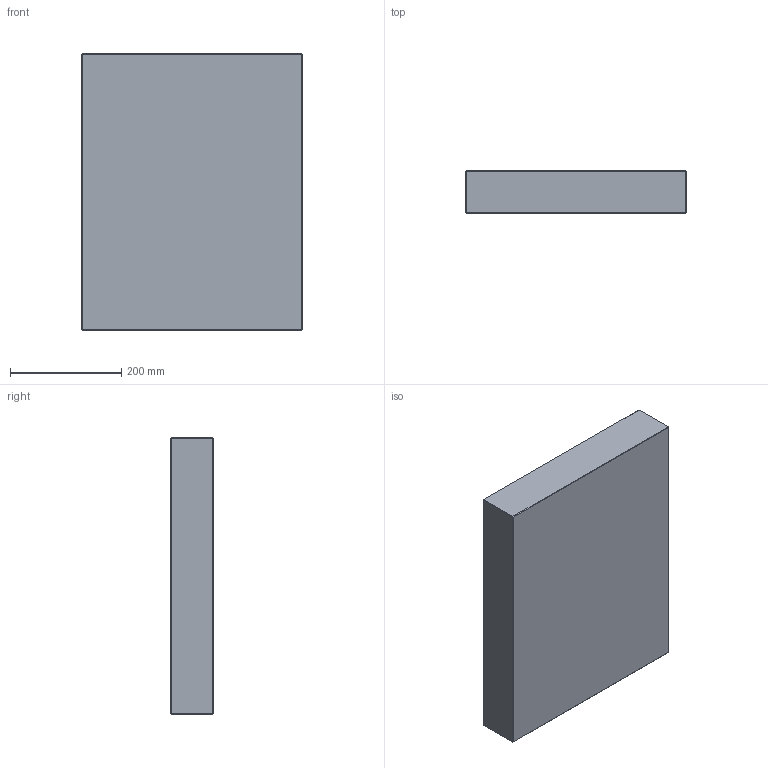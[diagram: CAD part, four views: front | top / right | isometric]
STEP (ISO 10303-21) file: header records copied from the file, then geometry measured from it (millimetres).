
FILE_DESCRIPTION (( 'STEP AP214' ), '1' );
FILE_NAME ('PC-P-396x496x76.STEP', '2020-04-01T10:41:39', ( 'August' ), ( '' ), 'SwSTEP 2.0', 'SolidWorks 2018', '' );
FILE_SCHEMA (( 'AUTOMOTIVE_DESIGN' ));
Length unit declared in the file: millimetre
Products named in the file (1): PC-P-396x496x76
Bounding box: 396 x 76 x 496 mm (x, y, z)
Volume: 14925685.3 mm3; surface area: 526144.8 mm2
Topology: 1 solids, 1 shells, 26 faces, 48 edges, 24 vertices
Faces by surface type: plane 26
Entity records: 634 total; most frequent: DIRECTION 102, CARTESIAN_POINT 99, ORIENTED_EDGE 96, LINE 48, EDGE_CURVE 48, VECTOR 48, AXIS2_PLACEMENT_3D 27, EDGE_LOOP 26
